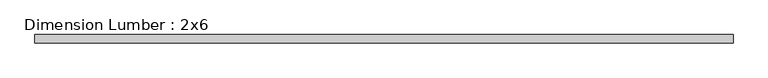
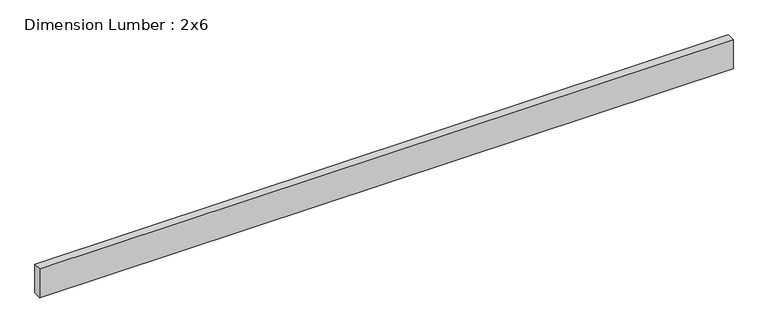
"""IFC4 building model written with IfcOpenShell, lengths in millimetres: beam geometry, Dimension Lumber : 2x6."""

from ifc_helpers import new_model, si_unit, frame, origin, place, context, project, spatial, polyline, outline, extrude, source, transform, mapped, element, save


def dimension_lumber_2x6_a43e2e79(model_context):
    return source(origin(), model_context, "Body", "SweptSolid", [
        extrude(outline(polyline([(1552.575, 19.05), (1552.575, -19.05), (-1622.425, -19.05), (-1622.425, 19.05), (1552.575, 19.05)])), frame((0.0, 0.0, -69.85), z_axis=(0.0, 0.0, 1.0), x_axis=(1.0, 0.0, 0.0)), (0.0, 0.0, 1.0), 139.7),
    ])


if __name__ == "__main__":
    model = new_model("IFC4")
    model_context = context("Model", 3, world=origin())
    ifc_project = project(units=[si_unit("LENGTHUNIT", "METRE", prefix="MILLI")], contexts=[model_context])
    site = spatial("IfcSite", under=ifc_project)
    building = spatial("IfcBuilding", under=site)
    placement = place(None, origin())
    dimension_lumber_2x6_shape = dimension_lumber_2x6_a43e2e79(model_context)
    element("IfcBeam", 1, ObjectType="Dimension Lumber : 2x6", at=placement, inside=building, context=model_context, shape_type="MappedRepresentation", body=[
        mapped(dimension_lumber_2x6_shape, transform((0.0, 0.0, 0.0), x_axis=(1.0, 0.0, 0.0), y_axis=(0.0, 1.0, 0.0), z_axis=(0.0, 0.0, 1.0))),
    ])
    save(model, "model.ifc")
